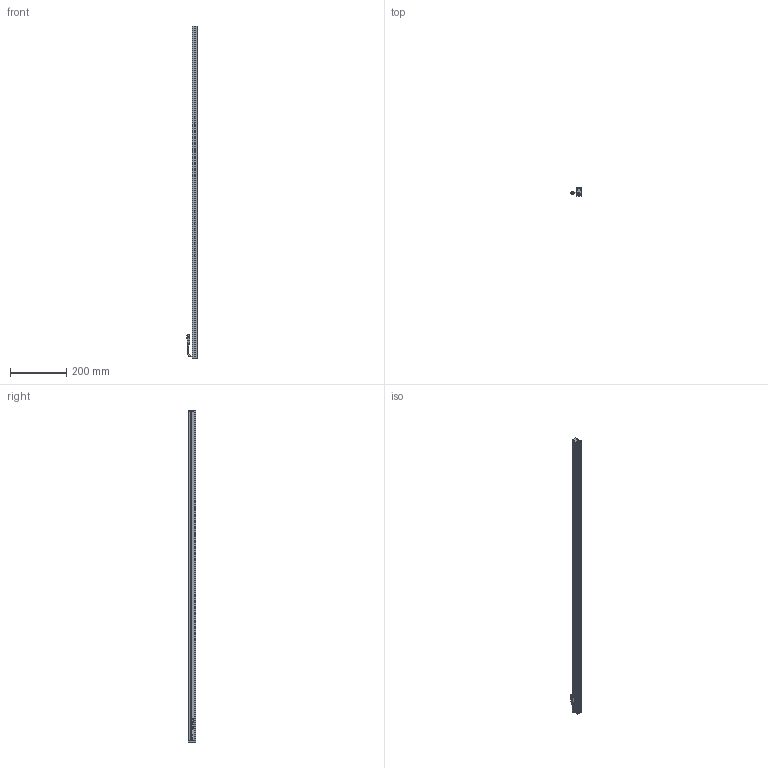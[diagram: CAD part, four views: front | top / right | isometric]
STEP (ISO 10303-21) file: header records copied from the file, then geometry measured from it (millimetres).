
FILE_DESCRIPTION (( 'STEP AP203' ), '1' );
FILE_NAME ('CK-BL118218.STEP', '2025-12-27T01:02:11', ( '' ), ( '' ), 'SwSTEP 2.0', 'SolidWorks 2022', '' );
FILE_SCHEMA (( 'CONFIG_CONTROL_DESIGN' ));
Length unit declared in the file: millimetre
Products named in the file (6): CK-BL118218-002A; 光源线-01; CK-BL118218-003A; CK-BL118218-001A; 十字沉头螺丝 M2x10; CK-BL118218
Assembly tree (9 placements, depth 2):
  CK-BL118218
    CK-BL118218-001A
    CK-BL118218-002A  x2
    CK-BL118218-003A
    光源线-01
    十字沉头螺丝 M2x10  x4
Bounding box: 37.34 x 27 x 1182 mm (x, y, z)
Volume: 260456.4 mm3; surface area: 257200.2 mm2
Topology: 11 solids, 11 shells, 474 faces, 1231 edges, 780 vertices
Faces by surface type: plane 271, cylinder 149, cone 34, bspline 20
Entity records: 12442 total; most frequent: CARTESIAN_POINT 2514, ORIENTED_EDGE 1936, DIRECTION 1916, EDGE_CURVE 968, LINE 668, VECTOR 668, VERTEX_POINT 626, AXIS2_PLACEMENT_3D 624
